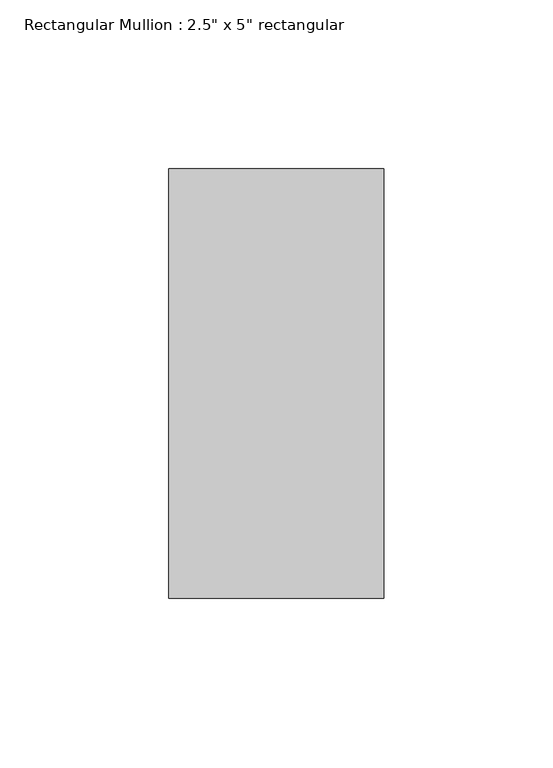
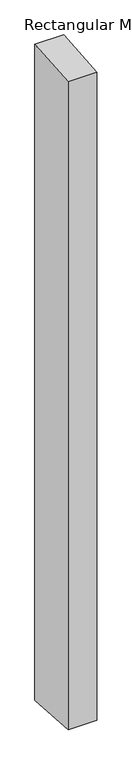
"""IFC4 building model written with IfcOpenShell, lengths in millimetres: member geometry."""

from ifc_helpers import new_model, si_unit, origin, place, context, project, spatial, faceted_brep, source, transform, mapped, element, save


def member_606bd935(model_context):
    return source(origin(), model_context, "Body", "Brep", [
        faceted_brep([(-63.5, 63.5, 5.1455955), (0.0, 63.5, 5.307663), (0.0, 63.5, -1527.7383904), (-63.5, 63.5, -1527.62424), (-63.5, -63.5, -5.4697305), (-63.5, -63.5, -1520.1474592), (0.0, -63.5, -5.307663), (0.0, -63.5, -1520.2616096)], [[[0, 1, 2, 3]], [[4, 0, 3, 5]], [[6, 4, 5, 7]], [[1, 6, 7, 2]], [[1, 0, 4, 6]], [[2, 7, 5, 3]]]),
    ])


if __name__ == "__main__":
    model = new_model("IFC4")
    model_context = context("Model", 3, world=origin())
    ifc_project = project(units=[si_unit("LENGTHUNIT", "METRE", prefix="MILLI")], contexts=[model_context])
    site = spatial("IfcSite", under=ifc_project)
    building = spatial("IfcBuilding", under=site)
    placement = place(None, origin())
    member_shape = member_606bd935(model_context)
    element("IfcMember", 1, ObjectType="Rectangular Mullion : 2.5\" x 5\" rectangular", at=placement, inside=building, context=model_context, shape_type="MappedRepresentation", body=[
        mapped(member_shape, transform((0.0, 0.0, 0.0), x_axis=(1.0, 0.0, 0.0), y_axis=(0.0, 1.0, 0.0), z_axis=(0.0, 0.0, 1.0))),
    ])
    save(model, "model.ifc")
